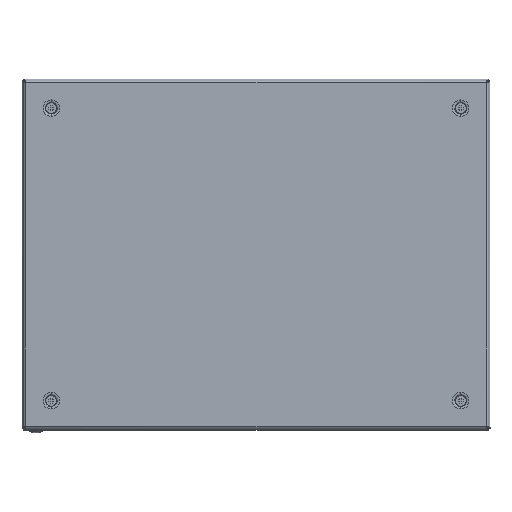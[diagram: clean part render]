
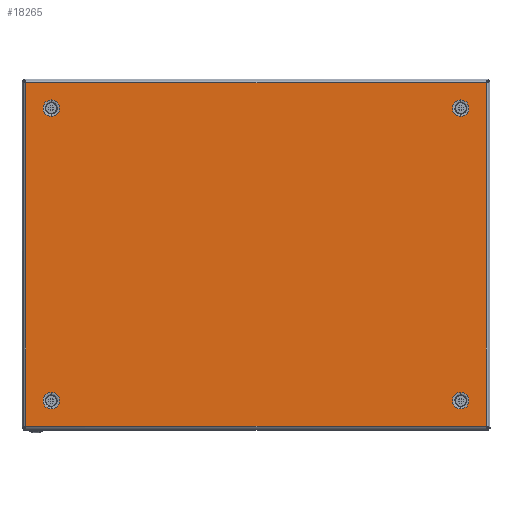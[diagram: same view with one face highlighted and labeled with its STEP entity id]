
A CAD part, top view. The second image highlights one B-rep face of the part: STEP entity #18265.
In plain terms, the highlighted planar face has unit normal (0, 0, 1).
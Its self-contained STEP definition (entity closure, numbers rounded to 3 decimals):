
#174 = VERTEX_POINT ( 'NONE', #30849 ) ;
#524 = VERTEX_POINT ( 'NONE', #10389 ) ;
#539 = EDGE_LOOP ( 'NONE', ( #28838, #22568 ) ) ;
#676 = DIRECTION ( 'NONE',  ( 1., 0., 0. ) ) ;
#718 = AXIS2_PLACEMENT_3D ( 'NONE', #30188, #20310, #20460 ) ;
#860 = DIRECTION ( 'NONE',  ( 0., 0., 1. ) ) ;
#890 = ORIENTED_EDGE ( 'NONE', *, *, #22790, .T. ) ;
#934 = ORIENTED_EDGE ( 'NONE', *, *, #9266, .T. ) ;
#951 = FACE_BOUND ( 'NONE', #26611, .T. ) ;
#1058 = CIRCLE ( 'NONE', #13293, 7.05 ) ;
#1251 = DIRECTION ( 'NONE',  ( 1., 0., 0. ) ) ;
#1744 = DIRECTION ( 'NONE',  ( 0., 1., 0. ) ) ;
#2421 = DIRECTION ( 'NONE',  ( 0., 1., 0. ) ) ;
#3243 = CIRCLE ( 'NONE', #25655, 7.05 ) ;
#3334 = CARTESIAN_POINT ( 'NONE',  ( 0., 0., 0. ) ) ;
#3375 = CIRCLE ( 'NONE', #20692, 7.05 ) ;
#3521 = DIRECTION ( 'NONE',  ( 0., 0., 1. ) ) ;
#4032 = EDGE_CURVE ( 'NONE', #524, #24249, #27901, .T. ) ;
#4177 = DIRECTION ( 'NONE',  ( 0., 0., 1. ) ) ;
#5136 = VERTEX_POINT ( 'NONE', #27944 ) ;
#5262 = EDGE_LOOP ( 'NONE', ( #23607, #15676 ) ) ;
#5268 = CARTESIAN_POINT ( 'NONE',  ( 175., 132.05, 0. ) ) ;
#5895 = VERTEX_POINT ( 'NONE', #24215 ) ;
#5947 = CARTESIAN_POINT ( 'NONE',  ( -175., -125., 0. ) ) ;
#6104 = DIRECTION ( 'NONE',  ( 0., -1., 0. ) ) ;
#6188 = EDGE_CURVE ( 'NONE', #5895, #17594, #13676, .T. ) ;
#6382 = EDGE_CURVE ( 'NONE', #24249, #524, #24253, .T. ) ;
#6467 = CARTESIAN_POINT ( 'NONE',  ( -196.6, 146.6, 0. ) ) ;
#7106 = ORIENTED_EDGE ( 'NONE', *, *, #6382, .F. ) ;
#7303 = VERTEX_POINT ( 'NONE', #27576 ) ;
#7415 = ORIENTED_EDGE ( 'NONE', *, *, #16589, .T. ) ;
#7761 = AXIS2_PLACEMENT_3D ( 'NONE', #3334, #13235, #1251 ) ;
#8265 = CARTESIAN_POINT ( 'NONE',  ( 196.6, -146.6, 0. ) ) ;
#8274 = FACE_BOUND ( 'NONE', #5262, .T. ) ;
#8508 = VECTOR ( 'NONE', #2421, 1000. ) ;
#8572 = AXIS2_PLACEMENT_3D ( 'NONE', #5947, #860, #22881 ) ;
#9022 = VERTEX_POINT ( 'NONE', #17771 ) ;
#9037 = DIRECTION ( 'NONE',  ( 0., -1., 0. ) ) ;
#9161 = ORIENTED_EDGE ( 'NONE', *, *, #6188, .T. ) ;
#9187 = DIRECTION ( 'NONE',  ( 0., -1., 0. ) ) ;
#9266 = EDGE_CURVE ( 'NONE', #10731, #5895, #9581, .T. ) ;
#9483 = DIRECTION ( 'NONE',  ( 0., 0., 1. ) ) ;
#9581 = LINE ( 'NONE', #26988, #8508 ) ;
#9933 = CIRCLE ( 'NONE', #718, 7.05 ) ;
#10389 = CARTESIAN_POINT ( 'NONE',  ( 175., 117.95, 0. ) ) ;
#10731 = VERTEX_POINT ( 'NONE', #8265 ) ;
#10936 = DIRECTION ( 'NONE',  ( -1., 0., 0. ) ) ;
#11032 = CARTESIAN_POINT ( 'NONE',  ( -196.6, 147.659, 0. ) ) ;
#11946 = DIRECTION ( 'NONE',  ( 0., -1., 0. ) ) ;
#12915 = ORIENTED_EDGE ( 'NONE', *, *, #4032, .F. ) ;
#13235 = DIRECTION ( 'NONE',  ( 0., 0., 1. ) ) ;
#13253 = ORIENTED_EDGE ( 'NONE', *, *, #13867, .F. ) ;
#13258 = CARTESIAN_POINT ( 'NONE',  ( -175., 125., 0. ) ) ;
#13272 = VERTEX_POINT ( 'NONE', #15018 ) ;
#13293 = AXIS2_PLACEMENT_3D ( 'NONE', #30915, #28666, #9037 ) ;
#13433 = CARTESIAN_POINT ( 'NONE',  ( -175., 117.95, 0. ) ) ;
#13676 = LINE ( 'NONE', #20683, #28837 ) ;
#13867 = EDGE_CURVE ( 'NONE', #9022, #30410, #1058, .T. ) ;
#15018 = CARTESIAN_POINT ( 'NONE',  ( -175., -117.95, 0. ) ) ;
#15676 = ORIENTED_EDGE ( 'NONE', *, *, #26020, .F. ) ;
#15819 = CARTESIAN_POINT ( 'NONE',  ( -197.659, -146.6, 0. ) ) ;
#16589 = EDGE_CURVE ( 'NONE', #174, #10731, #22527, .T. ) ;
#16728 = EDGE_LOOP ( 'NONE', ( #890, #7415, #934, #9161 ) ) ;
#16765 = CARTESIAN_POINT ( 'NONE',  ( 175., -125., 0. ) ) ;
#16938 = VECTOR ( 'NONE', #676, 1000. ) ;
#17594 = VERTEX_POINT ( 'NONE', #6467 ) ;
#17669 = EDGE_CURVE ( 'NONE', #20639, #5136, #3243, .T. ) ;
#17771 = CARTESIAN_POINT ( 'NONE',  ( 175., -117.95, 0. ) ) ;
#18049 = EDGE_LOOP ( 'NONE', ( #21237, #13253 ) ) ;
#18265 = ADVANCED_FACE ( 'NONE', ( #30144, #951, #8274, #23115, #20565 ), #29992, .T. ) ;
#18290 = CARTESIAN_POINT ( 'NONE',  ( -175., 125., 0. ) ) ;
#20310 = DIRECTION ( 'NONE',  ( 0., 0., 1. ) ) ;
#20460 = DIRECTION ( 'NONE',  ( 0., -1., 0. ) ) ;
#20565 = FACE_OUTER_BOUND ( 'NONE', #16728, .T. ) ;
#20639 = VERTEX_POINT ( 'NONE', #13433 ) ;
#20683 = CARTESIAN_POINT ( 'NONE',  ( 197.659, 146.6, 0. ) ) ;
#20685 = EDGE_CURVE ( 'NONE', #7303, #13272, #9933, .T. ) ;
#20692 = AXIS2_PLACEMENT_3D ( 'NONE', #13258, #3521, #1744 ) ;
#21090 = DIRECTION ( 'NONE',  ( 0., -1., 0. ) ) ;
#21137 = CIRCLE ( 'NONE', #22667, 7.05 ) ;
#21149 = DIRECTION ( 'NONE',  ( 0., 0., 1. ) ) ;
#21237 = ORIENTED_EDGE ( 'NONE', *, *, #21848, .F. ) ;
#21256 = LINE ( 'NONE', #11032, #27806 ) ;
#21694 = CARTESIAN_POINT ( 'NONE',  ( 175., 125., 0. ) ) ;
#21848 = EDGE_CURVE ( 'NONE', #30410, #9022, #21137, .T. ) ;
#22527 = LINE ( 'NONE', #15819, #16938 ) ;
#22568 = ORIENTED_EDGE ( 'NONE', *, *, #17669, .F. ) ;
#22667 = AXIS2_PLACEMENT_3D ( 'NONE', #16765, #4177, #21090 ) ;
#22790 = EDGE_CURVE ( 'NONE', #17594, #174, #21256, .T. ) ;
#22858 = CIRCLE ( 'NONE', #8572, 7.05 ) ;
#22881 = DIRECTION ( 'NONE',  ( 0., -1., 0. ) ) ;
#23081 = CARTESIAN_POINT ( 'NONE',  ( 175., -132.05, 0. ) ) ;
#23115 = FACE_BOUND ( 'NONE', #539, .T. ) ;
#23303 = EDGE_CURVE ( 'NONE', #5136, #20639, #3375, .T. ) ;
#23607 = ORIENTED_EDGE ( 'NONE', *, *, #20685, .F. ) ;
#24089 = DIRECTION ( 'NONE',  ( 0., 0., 1. ) ) ;
#24215 = CARTESIAN_POINT ( 'NONE',  ( 196.6, 146.6, 0. ) ) ;
#24249 = VERTEX_POINT ( 'NONE', #5268 ) ;
#24253 = CIRCLE ( 'NONE', #24788, 7.05 ) ;
#24788 = AXIS2_PLACEMENT_3D ( 'NONE', #30896, #9483, #9187 ) ;
#25634 = DIRECTION ( 'NONE',  ( 0., 1., 0. ) ) ;
#25655 = AXIS2_PLACEMENT_3D ( 'NONE', #18290, #21149, #25634 ) ;
#26020 = EDGE_CURVE ( 'NONE', #13272, #7303, #22858, .T. ) ;
#26611 = EDGE_LOOP ( 'NONE', ( #12915, #7106 ) ) ;
#26988 = CARTESIAN_POINT ( 'NONE',  ( 196.6, -147.659, 0. ) ) ;
#27576 = CARTESIAN_POINT ( 'NONE',  ( -175., -132.05, 0. ) ) ;
#27806 = VECTOR ( 'NONE', #6104, 1000. ) ;
#27901 = CIRCLE ( 'NONE', #29936, 7.05 ) ;
#27944 = CARTESIAN_POINT ( 'NONE',  ( -175., 132.05, 0. ) ) ;
#28666 = DIRECTION ( 'NONE',  ( 0., 0., 1. ) ) ;
#28837 = VECTOR ( 'NONE', #10936, 1000. ) ;
#28838 = ORIENTED_EDGE ( 'NONE', *, *, #23303, .F. ) ;
#29936 = AXIS2_PLACEMENT_3D ( 'NONE', #21694, #24089, #11946 ) ;
#29992 = PLANE ( 'NONE',  #7761 ) ;
#30144 = FACE_BOUND ( 'NONE', #18049, .T. ) ;
#30188 = CARTESIAN_POINT ( 'NONE',  ( -175., -125., 0. ) ) ;
#30410 = VERTEX_POINT ( 'NONE', #23081 ) ;
#30849 = CARTESIAN_POINT ( 'NONE',  ( -196.6, -146.6, 0. ) ) ;
#30896 = CARTESIAN_POINT ( 'NONE',  ( 175., 125., 0. ) ) ;
#30915 = CARTESIAN_POINT ( 'NONE',  ( 175., -125., 0. ) ) ;
